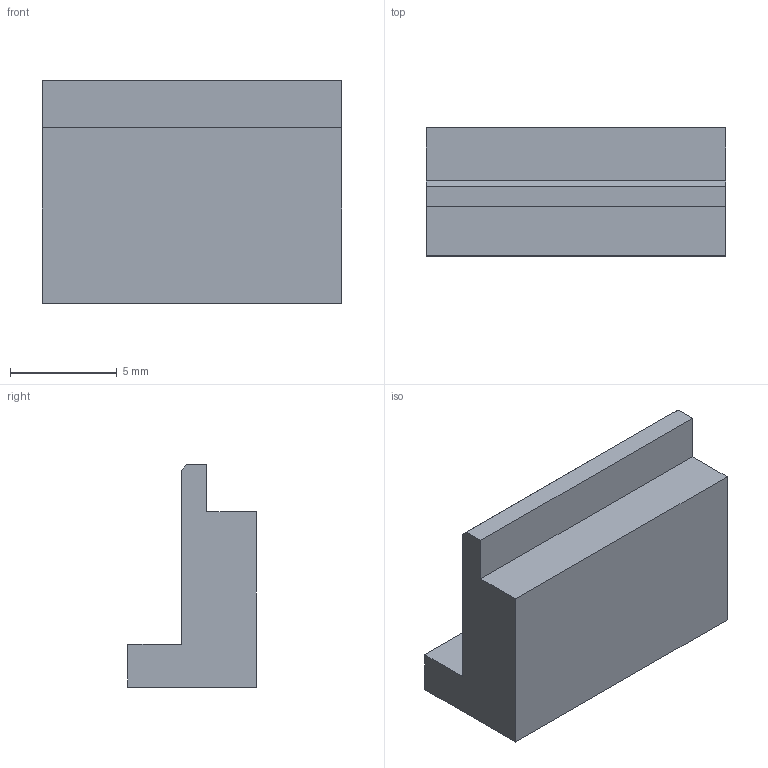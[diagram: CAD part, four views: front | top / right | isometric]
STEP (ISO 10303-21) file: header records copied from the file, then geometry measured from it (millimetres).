
FILE_DESCRIPTION(('FreeCAD Model'),'2;1');
FILE_NAME('Open CASCADE Shape Model','2026-10-03T19:08:44',('Author'),( ''),'Open CASCADE STEP processor 7.8','FreeCAD','Unknown');
FILE_SCHEMA(('AUTOMOTIVE_DESIGN { 1 0 10303 214 1 1 1 1 }'));
Length unit declared in the file: millimetre
Products named in the file (1): OPTIONAL_StrongLockV2_Joint_Base_Test
Bounding box: 14 x 6 x 10.4 mm (x, y, z)
Volume: 502.2 mm3; surface area: 542.2 mm2
Topology: 1 solids, 1 shells, 16 faces, 39 edges, 26 vertices
Faces by surface type: bspline 16
Entity records: 434 total; most frequent: CARTESIAN_POINT 169, ORIENTED_EDGE 78, EDGE_CURVE 39, B_SPLINE_CURVE_WITH_KNOTS 39, VERTEX_POINT 26, FACE_BOUND 17, EDGE_LOOP 17, ADVANCED_FACE 16
